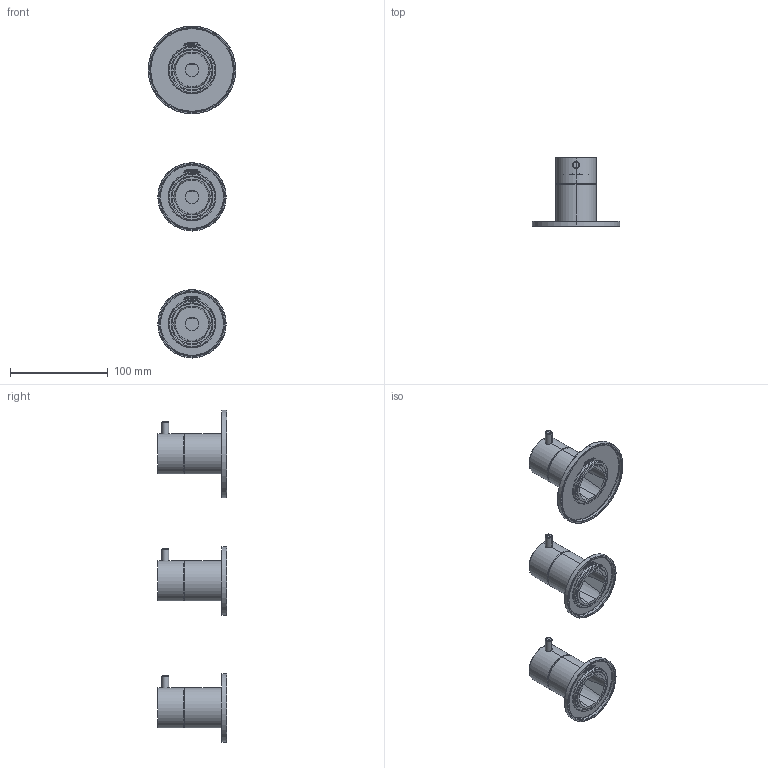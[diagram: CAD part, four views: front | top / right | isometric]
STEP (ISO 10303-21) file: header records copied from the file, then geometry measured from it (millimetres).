
FILE_DESCRIPTION((''),'2;1');
FILE_NAME('76711--00_ASM','2026-03-12T13:50:39',('clra1'),(''),'CREO PARAMETRIC BY PTC INC, 2022244','CREO PARAMETRIC BY PTC INC, 2022244','');
FILE_SCHEMA(('CONFIG_CONTROL_DESIGN'));
Length unit declared in the file: millimetre
Products named in the file (20): 46372--; 4396500; 46373--_ASM; 44978--; 4498000; 46498--_ASM; 46022--; 44986--; 4498800; 44989--_ASM; 76709--00_SUB01_ASM; 46493--; 46494--_ASM; 4653500; 46499--_ASM; 44979--; 44987--; 44990--_ASM; 76710--00_SUB01_ASM; 76711--00_ASM
Assembly tree (23 placements, depth 4):
  76711--00_ASM
    76709--00_SUB01_ASM
      46373--_ASM
        46372--
        4396500
      46498--_ASM
        44978--
        4498000
      44989--_ASM
        46022--
        44986--
        4498800
    76710--00_SUB01_ASM  x2
      46494--_ASM
        46493--
        4396500
      46499--_ASM
        44978--
        4653500
      44990--_ASM
        44979--
        44987--
        4498800
Bounding box: 90 x 70.8 x 340 mm (x, y, z)
Volume: 111708.4 mm3; surface area: 112160 mm2
Topology: 21 solids, 21 shells, 3658 faces, 9876 edges, 6332 vertices
Faces by surface type: plane 2169, cylinder 717, torus 309, bspline 212, cone 162, sphere 89
Entity records: 77310 total; most frequent: CARTESIAN_POINT 25387, ORIENTED_EDGE 11428, DIRECTION 9804, EDGE_CURVE 5714, VERTEX_POINT 3667, VECTOR 3632, LINE 3632, AXIS2_PLACEMENT_3D 3086
